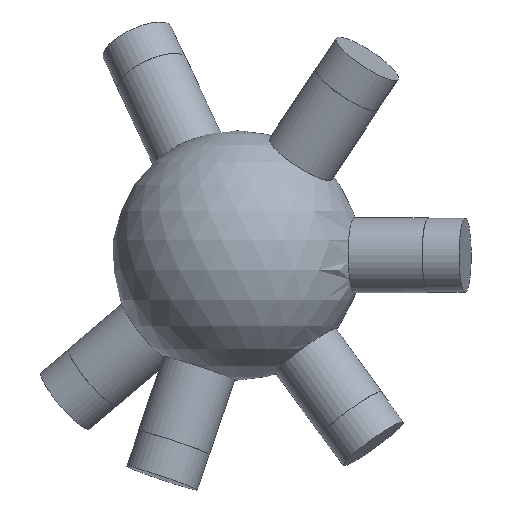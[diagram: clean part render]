
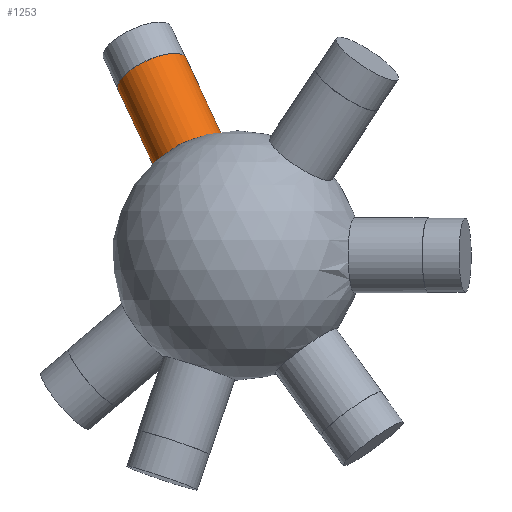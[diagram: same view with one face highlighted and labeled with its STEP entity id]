
A CAD part, left-side view. The second image highlights one B-rep face of the part: STEP entity #1253.
In plain terms, the highlighted cylindrical face has radius 6 mm (diameter 12 mm), a full revolution.
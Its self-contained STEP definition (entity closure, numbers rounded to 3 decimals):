
#37 = SPHERICAL_SURFACE('',#38,20.);
#38 = AXIS2_PLACEMENT_3D('',#39,#40,#41);
#39 = CARTESIAN_POINT('',(0.,0.,0.));
#40 = DIRECTION('',(0.,0.,1.));
#41 = DIRECTION('',(1.,0.,-0.));
#703 = EDGE_CURVE('',#704,#704,#706,.T.);
#704 = VERTEX_POINT('',#705);
#705 = CARTESIAN_POINT('',(7.087,12.93,
    13.512));
#706 = SURFACE_CURVE('',#707,(#712,#802),.PCURVE_S1.);
#707 = CIRCLE('',#708,6.);
#708 = AXIS2_PLACEMENT_3D('',#709,#710,#711);
#709 = CARTESIAN_POINT('',(7.087,7.494,16.051
    ));
#710 = DIRECTION('',(0.371,0.393,0.841));
#711 = DIRECTION('',(0.,-0.906,0.423)
  );
#712 = PCURVE('',#37,#713);
#713 = DEFINITIONAL_REPRESENTATION('',(#714),#801);
#714 = B_SPLINE_CURVE_WITH_KNOTS('',8,(#715,#716,#717,#718,#719,#720,
    #721,#722,#723,#724,#725,#726,#727,#728,#729,#730,#731,#732,#733,
    #734,#735,#736,#737,#738,#739,#740,#741,#742,#743,#744,#745,#746,
    #747,#748,#749,#750,#751,#752,#753,#754,#755,#756,#757,#758,#759,
    #760,#761,#762,#763,#764,#765,#766,#767,#768,#769,#770,#771,#772,
    #773,#774,#775,#776,#777,#778,#779,#780,#781,#782,#783,#784,#785,
    #786,#787,#788,#789,#790,#791,#792,#793,#794,#795,#796,#797,#798,
    #799,#800),.UNSPECIFIED.,.F.,.F.,(9,7,7,7,7,7,7,7,7,7,7,7,9),(
    3.142,3.927,4.614,4.915,
    5.197,5.461,5.709,5.941,
    6.376,6.757,7.424,8.425,
    9.425),.UNSPECIFIED.);
#715 = CARTESIAN_POINT('',(1.069,0.742));
#716 = CARTESIAN_POINT('',(1.105,0.755));
#717 = CARTESIAN_POINT('',(1.14,0.771));
#718 = CARTESIAN_POINT('',(1.173,0.788));
#719 = CARTESIAN_POINT('',(1.205,0.808));
#720 = CARTESIAN_POINT('',(1.236,0.829));
#721 = CARTESIAN_POINT('',(1.264,0.852));
#722 = CARTESIAN_POINT('',(1.291,0.876));
#723 = CARTESIAN_POINT('',(1.335,0.924));
#724 = CARTESIAN_POINT('',(1.354,0.947));
#725 = CARTESIAN_POINT('',(1.37,0.971));
#726 = CARTESIAN_POINT('',(1.384,0.996));
#727 = CARTESIAN_POINT('',(1.395,1.021));
#728 = CARTESIAN_POINT('',(1.401,1.047));
#729 = CARTESIAN_POINT('',(1.404,1.073));
#730 = CARTESIAN_POINT('',(1.399,1.11));
#731 = CARTESIAN_POINT('',(1.396,1.121));
#732 = CARTESIAN_POINT('',(1.392,1.132));
#733 = CARTESIAN_POINT('',(1.387,1.143));
#734 = CARTESIAN_POINT('',(1.381,1.154));
#735 = CARTESIAN_POINT('',(1.373,1.165));
#736 = CARTESIAN_POINT('',(1.363,1.176));
#737 = CARTESIAN_POINT('',(1.341,1.196));
#738 = CARTESIAN_POINT('',(1.329,1.206));
#739 = CARTESIAN_POINT('',(1.315,1.215));
#740 = CARTESIAN_POINT('',(1.299,1.224));
#741 = CARTESIAN_POINT('',(1.281,1.233));
#742 = CARTESIAN_POINT('',(1.261,1.241));
#743 = CARTESIAN_POINT('',(1.239,1.249));
#744 = CARTESIAN_POINT('',(1.192,1.263));
#745 = CARTESIAN_POINT('',(1.167,1.27));
#746 = CARTESIAN_POINT('',(1.14,1.276));
#747 = CARTESIAN_POINT('',(1.112,1.282));
#748 = CARTESIAN_POINT('',(1.081,1.287));
#749 = CARTESIAN_POINT('',(1.049,1.291));
#750 = CARTESIAN_POINT('',(1.015,1.295));
#751 = CARTESIAN_POINT('',(0.947,1.3));
#752 = CARTESIAN_POINT('',(0.913,1.302));
#753 = CARTESIAN_POINT('',(0.879,1.304));
#754 = CARTESIAN_POINT('',(0.843,1.305));
#755 = CARTESIAN_POINT('',(0.808,1.305));
#756 = CARTESIAN_POINT('',(0.772,1.304));
#757 = CARTESIAN_POINT('',(0.737,1.303));
#758 = CARTESIAN_POINT('',(0.671,1.3));
#759 = CARTESIAN_POINT('',(0.64,1.297));
#760 = CARTESIAN_POINT('',(0.609,1.295));
#761 = CARTESIAN_POINT('',(0.58,1.291));
#762 = CARTESIAN_POINT('',(0.552,1.287));
#763 = CARTESIAN_POINT('',(0.525,1.283));
#764 = CARTESIAN_POINT('',(0.5,1.278));
#765 = CARTESIAN_POINT('',(0.431,1.263));
#766 = CARTESIAN_POINT('',(0.392,1.252));
#767 = CARTESIAN_POINT('',(0.358,1.24));
#768 = CARTESIAN_POINT('',(0.329,1.226));
#769 = CARTESIAN_POINT('',(0.305,1.212));
#770 = CARTESIAN_POINT('',(0.285,1.198));
#771 = CARTESIAN_POINT('',(0.269,1.182));
#772 = CARTESIAN_POINT('',(0.245,1.153));
#773 = CARTESIAN_POINT('',(0.237,1.139));
#774 = CARTESIAN_POINT('',(0.231,1.125));
#775 = CARTESIAN_POINT('',(0.227,1.111));
#776 = CARTESIAN_POINT('',(0.224,1.097));
#777 = CARTESIAN_POINT('',(0.224,1.082));
#778 = CARTESIAN_POINT('',(0.225,1.068));
#779 = CARTESIAN_POINT('',(0.231,1.029));
#780 = CARTESIAN_POINT('',(0.24,1.004));
#781 = CARTESIAN_POINT('',(0.251,0.98));
#782 = CARTESIAN_POINT('',(0.266,0.956));
#783 = CARTESIAN_POINT('',(0.283,0.933));
#784 = CARTESIAN_POINT('',(0.302,0.911));
#785 = CARTESIAN_POINT('',(0.323,0.889));
#786 = CARTESIAN_POINT('',(0.379,0.838));
#787 = CARTESIAN_POINT('',(0.417,0.81));
#788 = CARTESIAN_POINT('',(0.457,0.785));
#789 = CARTESIAN_POINT('',(0.5,0.762));
#790 = CARTESIAN_POINT('',(0.544,0.743));
#791 = CARTESIAN_POINT('',(0.591,0.727));
#792 = CARTESIAN_POINT('',(0.638,0.715));
#793 = CARTESIAN_POINT('',(0.734,0.698));
#794 = CARTESIAN_POINT('',(0.783,0.693));
#795 = CARTESIAN_POINT('',(0.832,0.692));
#796 = CARTESIAN_POINT('',(0.881,0.694));
#797 = CARTESIAN_POINT('',(0.929,0.701));
#798 = CARTESIAN_POINT('',(0.977,0.711));
#799 = CARTESIAN_POINT('',(1.024,0.725));
#800 = CARTESIAN_POINT('',(1.069,0.742));
#801 = ( GEOMETRIC_REPRESENTATION_CONTEXT(2) 
PARAMETRIC_REPRESENTATION_CONTEXT() REPRESENTATION_CONTEXT('2D SPACE',''
  ) );
#802 = PCURVE('',#803,#808);
#803 = CYLINDRICAL_SURFACE('',#804,6.);
#804 = AXIS2_PLACEMENT_3D('',#805,#806,#807);
#805 = CARTESIAN_POINT('',(0.,0.,0.));
#806 = DIRECTION('',(0.371,0.393,0.841));
#807 = DIRECTION('',(0.,0.906,-0.423)
  );
#808 = DEFINITIONAL_REPRESENTATION('',(#809),#813);
#809 = LINE('',#810,#811);
#810 = CARTESIAN_POINT('',(-3.142,19.079));
#811 = VECTOR('',#812,1.);
#812 = DIRECTION('',(1.,0.));
#813 = ( GEOMETRIC_REPRESENTATION_CONTEXT(2) 
PARAMETRIC_REPRESENTATION_CONTEXT() REPRESENTATION_CONTEXT('2D SPACE',''
  ) );
#1253 = ADVANCED_FACE('',(#1254),#803,.T.);
#1254 = FACE_BOUND('',#1255,.T.);
#1255 = EDGE_LOOP('',(#1256,#1279,#1306,#1307));
#1256 = ORIENTED_EDGE('',*,*,#1257,.T.);
#1257 = EDGE_CURVE('',#704,#1258,#1260,.T.);
#1258 = VERTEX_POINT('',#1259);
#1259 = CARTESIAN_POINT('',(12.87,19.045,
    26.61));
#1260 = SEAM_CURVE('',#1261,(#1265,#1272),.PCURVE_S1.);
#1261 = LINE('',#1262,#1263);
#1262 = CARTESIAN_POINT('',(0.,5.437,
    -2.538));
#1263 = VECTOR('',#1264,1.);
#1264 = DIRECTION('',(0.371,0.393,0.841));
#1265 = PCURVE('',#803,#1266);
#1266 = DEFINITIONAL_REPRESENTATION('',(#1267),#1271);
#1267 = LINE('',#1268,#1269);
#1268 = CARTESIAN_POINT('',(6.283,-0.));
#1269 = VECTOR('',#1270,1.);
#1270 = DIRECTION('',(0.,1.));
#1271 = ( GEOMETRIC_REPRESENTATION_CONTEXT(2) 
PARAMETRIC_REPRESENTATION_CONTEXT() REPRESENTATION_CONTEXT('2D SPACE',''
  ) );
#1272 = PCURVE('',#803,#1273);
#1273 = DEFINITIONAL_REPRESENTATION('',(#1274),#1278);
#1274 = LINE('',#1275,#1276);
#1275 = CARTESIAN_POINT('',(0.,-0.));
#1276 = VECTOR('',#1277,1.);
#1277 = DIRECTION('',(0.,1.));
#1278 = ( GEOMETRIC_REPRESENTATION_CONTEXT(2) 
PARAMETRIC_REPRESENTATION_CONTEXT() REPRESENTATION_CONTEXT('2D SPACE',''
  ) );
#1279 = ORIENTED_EDGE('',*,*,#1280,.F.);
#1280 = EDGE_CURVE('',#1258,#1258,#1281,.T.);
#1281 = SURFACE_CURVE('',#1282,(#1287,#1294),.PCURVE_S1.);
#1282 = CIRCLE('',#1283,6.);
#1283 = AXIS2_PLACEMENT_3D('',#1284,#1285,#1286);
#1284 = CARTESIAN_POINT('',(12.87,13.608,
    29.148));
#1285 = DIRECTION('',(0.371,0.393,0.841));
#1286 = DIRECTION('',(0.,0.906,-0.423)
  );
#1287 = PCURVE('',#803,#1288);
#1288 = DEFINITIONAL_REPRESENTATION('',(#1289),#1293);
#1289 = LINE('',#1290,#1291);
#1290 = CARTESIAN_POINT('',(0.,34.648));
#1291 = VECTOR('',#1292,1.);
#1292 = DIRECTION('',(1.,0.));
#1293 = ( GEOMETRIC_REPRESENTATION_CONTEXT(2) 
PARAMETRIC_REPRESENTATION_CONTEXT() REPRESENTATION_CONTEXT('2D SPACE',''
  ) );
#1294 = PCURVE('',#1295,#1300);
#1295 = PLANE('',#1296);
#1296 = AXIS2_PLACEMENT_3D('',#1297,#1298,#1299);
#1297 = CARTESIAN_POINT('',(12.87,13.608,
    29.148));
#1298 = DIRECTION('',(0.371,0.393,0.841));
#1299 = DIRECTION('',(0.,0.906,-0.423)
  );
#1300 = DEFINITIONAL_REPRESENTATION('',(#1301),#1305);
#1301 = CIRCLE('',#1302,6.);
#1302 = AXIS2_PLACEMENT_2D('',#1303,#1304);
#1303 = CARTESIAN_POINT('',(0.,0.));
#1304 = DIRECTION('',(1.,0.));
#1305 = ( GEOMETRIC_REPRESENTATION_CONTEXT(2) 
PARAMETRIC_REPRESENTATION_CONTEXT() REPRESENTATION_CONTEXT('2D SPACE',''
  ) );
#1306 = ORIENTED_EDGE('',*,*,#1257,.F.);
#1307 = ORIENTED_EDGE('',*,*,#703,.T.);
